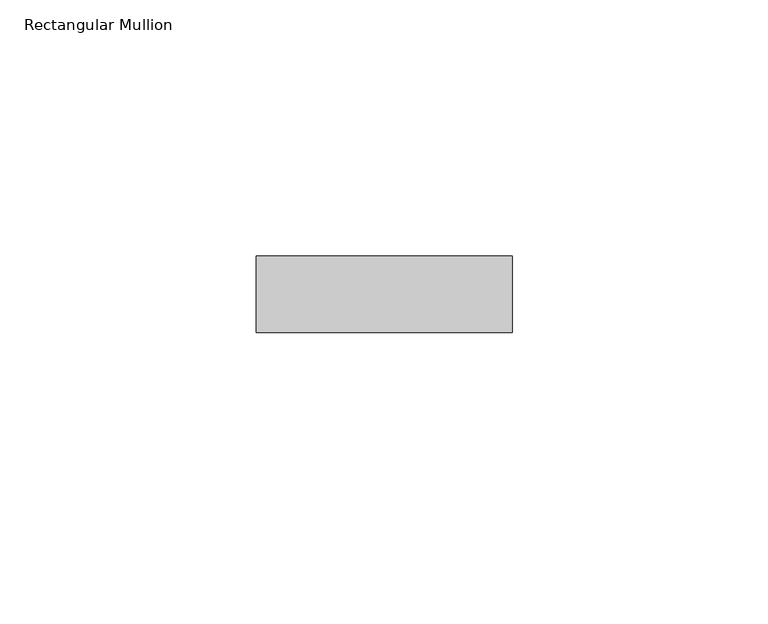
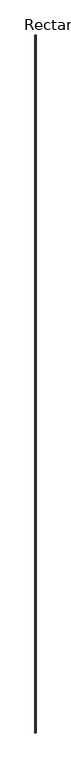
"""IFC4 building model written with IfcOpenShell, lengths in millimetres: member geometry, Rectangular Mullion : Ripa."""

from ifc_helpers import new_model, si_unit, frame, origin, place, context, project, spatial, polyline, outline, extrude, source, transform, mapped, element, save


def rectangular_mullion_e6535fec(model_context):
    return source(origin(), model_context, "Body", "SweptSolid", [
        extrude(outline(polyline([(-50.0, -75.0), (-50.0, -60.0), (0.0, -60.0), (0.0, -75.0), (-50.0, -75.0)])), frame((0.0, 0.0, -39475.0011106), z_axis=(0.0, 0.0, 1.0), x_axis=(1.0, 0.0, 0.0)), (0.0, 0.0, 1.0), 39475.0011106),
    ])


if __name__ == "__main__":
    model = new_model("IFC4")
    model_context = context("Model", 3, world=origin())
    ifc_project = project(units=[si_unit("LENGTHUNIT", "METRE", prefix="MILLI")], contexts=[model_context])
    site = spatial("IfcSite", under=ifc_project)
    building = spatial("IfcBuilding", under=site)
    placement = place(None, origin())
    rectangular_mullion_shape = rectangular_mullion_e6535fec(model_context)
    element("IfcMember", 1, ObjectType="Rectangular Mullion : Ripa", at=placement, inside=building, context=model_context, shape_type="MappedRepresentation", body=[
        mapped(rectangular_mullion_shape, transform((0.0, 0.0, 0.0), x_axis=(1.0, 0.0, 0.0), y_axis=(0.0, 1.0, 0.0), z_axis=(0.0, 0.0, 1.0))),
    ])
    save(model, "model.ifc")
